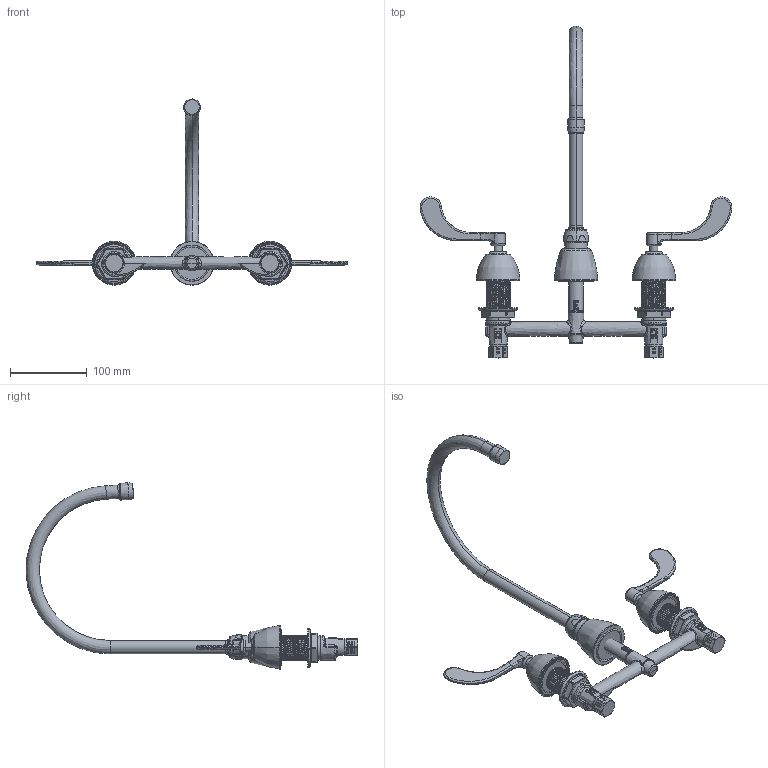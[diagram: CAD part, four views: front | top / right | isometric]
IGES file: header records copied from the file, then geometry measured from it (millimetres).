
Start section:  PTC IGES file: 201-a8ae26-5-317ab_REV101917.igs
Global section: file name: 201-a8ae26-5-317ab_REV101917.igs; native system: Creo Parametric by PTC Inc.; preprocessor: 2014500; author: dmisv; organization: Unknown; date: 20171019.093756; units: inch
Bounding box: 406.38 x 432.59 x 242.76 mm (x, y, z)
Surface area: 137198.5 mm2 (no closed solid volume)
Topology: 0 solids, 52 shells, 902 faces, 2348 edges, 1476 vertices
Faces by surface type: revolution 528, bspline 374
